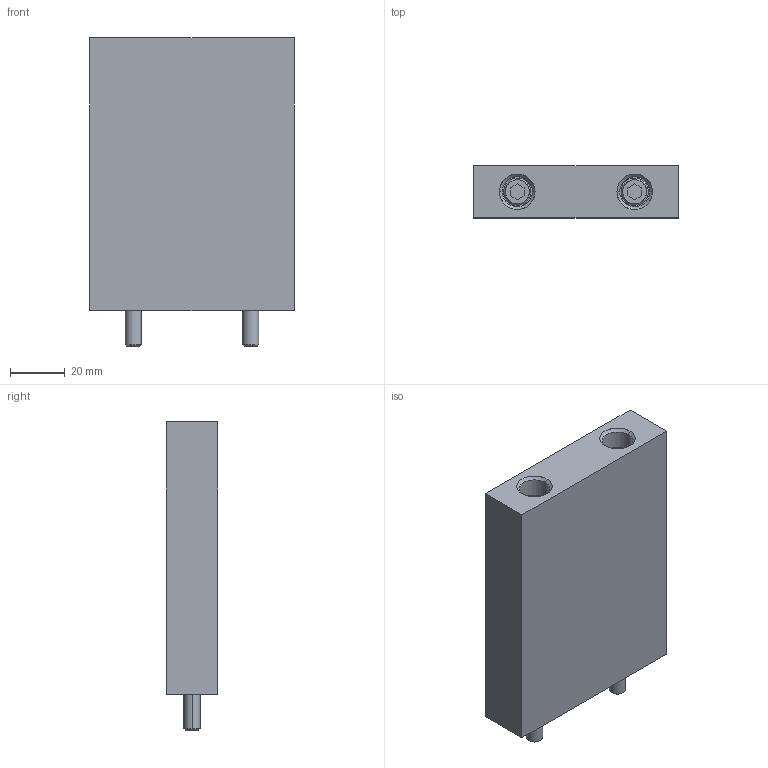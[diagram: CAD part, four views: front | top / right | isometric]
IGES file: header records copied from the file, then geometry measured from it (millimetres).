
Global section: file name: E:\UnigraphicsGraphicData\MISUMI_PRESS-PARTS\IGES\3d_sbvk19-75-100-n-100_00157_r00.igs; native system: NX V5.0; preprocessor: UGS NX IGES V5.0; author: MISUMI; date: 20110105.162511; units: millimetre
Bounding box: 75 x 19 x 113 mm (x, y, z)
Surface area: 30711 mm2 (no closed solid volume)
Topology: 0 solids, 0 shells, 56 faces, 336 edges, 336 vertices
Faces by surface type: bspline 56
